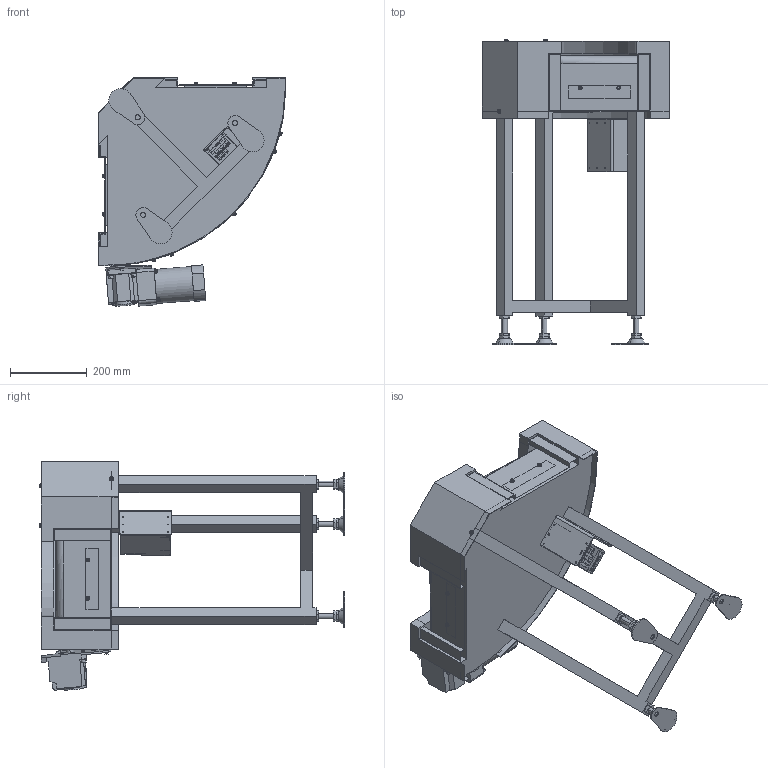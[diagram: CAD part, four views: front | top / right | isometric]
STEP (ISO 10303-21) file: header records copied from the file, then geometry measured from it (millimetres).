
FILE_DESCRIPTION( (''), '2;1');
FILE_NAME ('MBC2H-HS-309-200-90°-L-IVH-60-O.stp','2025-02-17T11:00:25',(''),(''),'spGate 20.6.2 (****-****-****-****)','','');
FILE_SCHEMA (('AUTOMOTIVE_DESIGN'));
Length unit declared in the file: millimetre
Products named in the file (36): NewModel; MBC2H-HS-309-200-90°-L-IVH-60-O; TEMP_X_T-prt0; TEMP_X_T-prt1; TEMP_X_T-prt2; TEMP_X_T-prt3; TEMP_X_T-prt4; TEMP_X_T-prt5; TEMP_X_T-prt6; TEMP_X_T-prt7; TEMP_X_T-prt8; TEMP_X_T-prt9; TEMP_X_T-prt10; TEMP_X_T-prt11; TEMP_X_T-prt12; TEMP_X_T-prt13; TEMP_X_T-prt14; TEMP_X_T-prt15; TEMP_X_T-prt16; TEMP_X_T-prt17; TEMP_X_T-prt18; TEMP_X_T-prt19; TEMP_X_T-prt20; TEMP_X_T-prt21; TEMP_X_T-prt22; TEMP_X_T-prt23; TEMP_X_T-prt24; TEMP_X_T-prt25; TEMP_X_T-prt26; TEMP_X_T-prt27; TEMP_X_T-prt28; TEMP_X_T-prt29; TEMP_X_T-prt30; TEMP_X_T-prt31; TEMP_X_T-prt32; TEMP_X_T-prt33
Assembly tree (35 placements, depth 3):
  NewModel
    MBC2H-HS-309-200-90°-L-IVH-60-O
      TEMP_X_T-prt0
      TEMP_X_T-prt1
      TEMP_X_T-prt2
      TEMP_X_T-prt3
      TEMP_X_T-prt4
      TEMP_X_T-prt5
      TEMP_X_T-prt6
      TEMP_X_T-prt7
      TEMP_X_T-prt8
      TEMP_X_T-prt9
      TEMP_X_T-prt10
      TEMP_X_T-prt11
      TEMP_X_T-prt12
      TEMP_X_T-prt13
      TEMP_X_T-prt14
      TEMP_X_T-prt15
      TEMP_X_T-prt16
      TEMP_X_T-prt17
      TEMP_X_T-prt18
      TEMP_X_T-prt19
      TEMP_X_T-prt20
      TEMP_X_T-prt21
      TEMP_X_T-prt22
      TEMP_X_T-prt23
      TEMP_X_T-prt24
      TEMP_X_T-prt25
      TEMP_X_T-prt26
      TEMP_X_T-prt27
      TEMP_X_T-prt28
      TEMP_X_T-prt29
      TEMP_X_T-prt30
      TEMP_X_T-prt31
      TEMP_X_T-prt32
      TEMP_X_T-prt33
Bounding box: 488.1 x 794.6 x 593.38 mm (x, y, z)
Volume: 24079325.6 mm3; surface area: 1917796.6 mm2
Topology: 34 solids, 34 shells, 1613 faces, 4008 edges, 2590 vertices
Faces by surface type: plane 1109, cylinder 323, bspline 175, sphere 6
Entity records: 85365 total; most frequent: CARTESIAN_POINT 14706, ORIENTED_EDGE 7968, DIRECTION 7288, COLOUR_RGB 5631, PRESENTATION_STYLE_ASSIGNMENT 5631, STYLED_ITEM 5631, EDGE_CURVE 3984, DRAUGHTING_PRE_DEFINED_CURVE_FONT 3984
